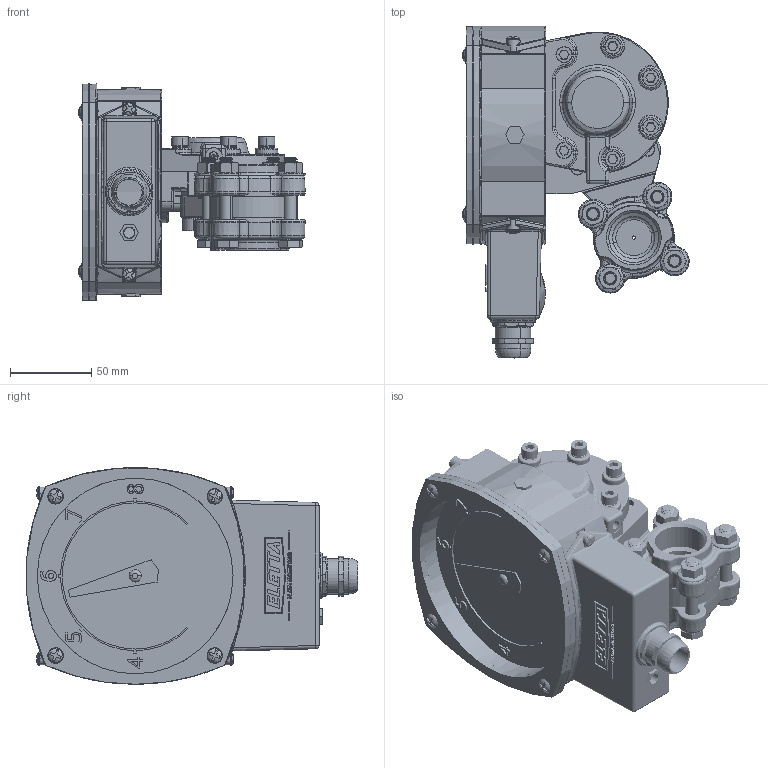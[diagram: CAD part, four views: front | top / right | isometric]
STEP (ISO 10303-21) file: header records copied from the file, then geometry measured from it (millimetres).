
FILE_DESCRIPTION (( 'STEP AP214' ), '1' );
FILE_NAME ('AS_GSS25.STEP', '2020-09-03T13:38:39', ( '' ), ( '' ), 'SwSTEP 2.0', 'SolidWorks 2018', '' );
FILE_SCHEMA (( 'AUTOMOTIVE_DESIGN' ));
Length unit declared in the file: centimetre
Products named in the file (26): 40-71035; ID_1; 40-92012; ID_17; 40-90061_00854   6 10-mattssons; ID_13; ID_1_5; ID_1_6; ID_15; ID_1_4; 40-90037_09312   8 50-mattssons; ID_14; ID_16; ID_11; ID_10; ID_9; ID_4; 40-92015; ID_3; 40-94001-1; 40-71038; 40-90054_097008--8-mattssons; AS_GSS25; ID_12; ID_2; 40-94010-1
Assembly tree (47 placements, depth 4):
  AS_GSS25
    ID_1
    ID_2
    ID_3  x6
    ID_4  x2
    ID_9
    ID_10
    ID_11
    ID_12
    ID_13
    ID_14
    ID_15
    ID_16  x4
    ID_17  x4
    ID_1_4
    ID_1_5
    ID_1_6
    40-71038
      40-71035
        40-92012
        40-94001-1  x2
        40-90061_00854   6 10-mattssons  x2
      40-92015  x2
      40-94010-1  x2
      40-90037_09312   8 50-mattssons  x4
      40-90054_097008--8-mattssons  x4
Bounding box: 139.37 x 204.42 x 133.34 mm (x, y, z)
Volume: 461420.9 mm3; surface area: 257014.6 mm2
Topology: 44 solids, 45 shells, 3480 faces, 8498 edges, 5156 vertices
Faces by surface type: plane 856, cone 734, cylinder 727, bspline 648, torus 507, sphere 8
Entity records: 100905 total; most frequent: CARTESIAN_POINT 52302, ORIENTED_EDGE 10494, DIRECTION 8744, EDGE_CURVE 5248, AXIS2_PLACEMENT_3D 3362, VERTEX_POINT 3243, EDGE_LOOP 2314, ADVANCED_FACE 2129
